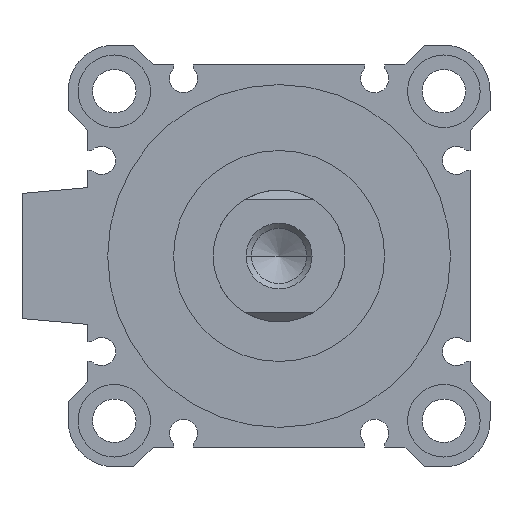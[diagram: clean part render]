
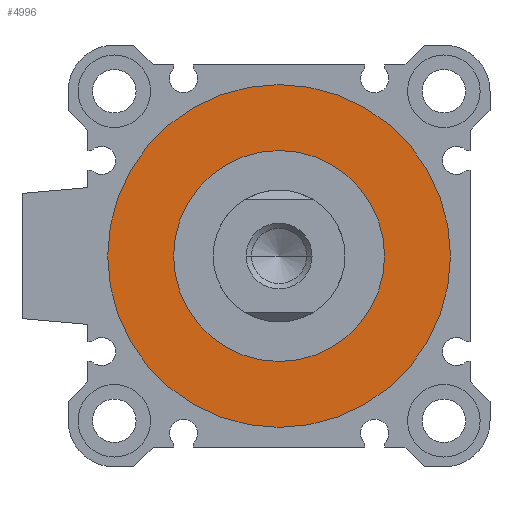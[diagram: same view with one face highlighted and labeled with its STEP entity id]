
A CAD part, left-side view. The second image highlights one B-rep face of the part: STEP entity #4996.
In plain terms, the highlighted planar face has unit normal (-1, 0, 0).
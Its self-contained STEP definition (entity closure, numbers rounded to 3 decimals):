
#175 = DIRECTION ( 'NONE',  ( 1., 0., 0. ) ) ;
#198 = DIRECTION ( 'NONE',  ( 1., 0., 0. ) ) ;
#228 = ORIENTED_EDGE ( 'NONE', *, *, #331, .T. ) ;
#331 = EDGE_CURVE ( 'NONE', #1346, #3983, #1939, .T. ) ;
#399 = AXIS2_PLACEMENT_3D ( 'NONE', #2181, #175, #3702 ) ;
#710 = EDGE_CURVE ( 'NONE', #3631, #2611, #2269, .T. ) ;
#954 = FACE_OUTER_BOUND ( 'NONE', #4089, .T. ) ;
#1136 = AXIS2_PLACEMENT_3D ( 'NONE', #3360, #1757, #2104 ) ;
#1195 = CARTESIAN_POINT ( 'NONE',  ( 3., 0., 26. ) ) ;
#1346 = VERTEX_POINT ( 'NONE', #3246 ) ;
#1515 = DIRECTION ( 'NONE',  ( 0., 0., -1. ) ) ;
#1694 = AXIS2_PLACEMENT_3D ( 'NONE', #3866, #4628, #1515 ) ;
#1757 = DIRECTION ( 'NONE',  ( 1., 0., 0. ) ) ;
#1765 = DIRECTION ( 'NONE',  ( 0., 0., -1. ) ) ;
#1939 = CIRCLE ( 'NONE', #1694, 16. ) ;
#1946 = EDGE_CURVE ( 'NONE', #3983, #1346, #4798, .T. ) ;
#2104 = DIRECTION ( 'NONE',  ( 0., 0., -1. ) ) ;
#2181 = CARTESIAN_POINT ( 'NONE',  ( 3., 0., 0. ) ) ;
#2213 = AXIS2_PLACEMENT_3D ( 'NONE', #2316, #2341, #2661 ) ;
#2269 = CIRCLE ( 'NONE', #1136, 26. ) ;
#2316 = CARTESIAN_POINT ( 'NONE',  ( 3., 0., 0. ) ) ;
#2341 = DIRECTION ( 'NONE',  ( 1., 0., 0. ) ) ;
#2564 = CIRCLE ( 'NONE', #4495, 26. ) ;
#2611 = VERTEX_POINT ( 'NONE', #1195 ) ;
#2661 = DIRECTION ( 'NONE',  ( 0., 0., -1. ) ) ;
#2782 = EDGE_CURVE ( 'NONE', #2611, #3631, #2564, .T. ) ;
#2857 = CARTESIAN_POINT ( 'NONE',  ( 3., 0., 16. ) ) ;
#3246 = CARTESIAN_POINT ( 'NONE',  ( 3., 0., -16. ) ) ;
#3254 = ORIENTED_EDGE ( 'NONE', *, *, #2782, .F. ) ;
#3260 = CARTESIAN_POINT ( 'NONE',  ( 3., 0., 0. ) ) ;
#3297 = PLANE ( 'NONE',  #399 ) ;
#3360 = CARTESIAN_POINT ( 'NONE',  ( 3., 0., 0. ) ) ;
#3631 = VERTEX_POINT ( 'NONE', #4517 ) ;
#3702 = DIRECTION ( 'NONE',  ( 0., 1., 0. ) ) ;
#3866 = CARTESIAN_POINT ( 'NONE',  ( 3., 0., 0. ) ) ;
#3983 = VERTEX_POINT ( 'NONE', #2857 ) ;
#4017 = EDGE_LOOP ( 'NONE', ( #4189, #228 ) ) ;
#4089 = EDGE_LOOP ( 'NONE', ( #3254, #4973 ) ) ;
#4189 = ORIENTED_EDGE ( 'NONE', *, *, #1946, .T. ) ;
#4495 = AXIS2_PLACEMENT_3D ( 'NONE', #3260, #198, #1765 ) ;
#4517 = CARTESIAN_POINT ( 'NONE',  ( 3., 0., -26. ) ) ;
#4628 = DIRECTION ( 'NONE',  ( 1., 0., 0. ) ) ;
#4798 = CIRCLE ( 'NONE', #2213, 16. ) ;
#4864 = FACE_BOUND ( 'NONE', #4017, .T. ) ;
#4973 = ORIENTED_EDGE ( 'NONE', *, *, #710, .F. ) ;
#4996 = ADVANCED_FACE ( 'NONE', ( #954, #4864 ), #3297, .F. ) ;
